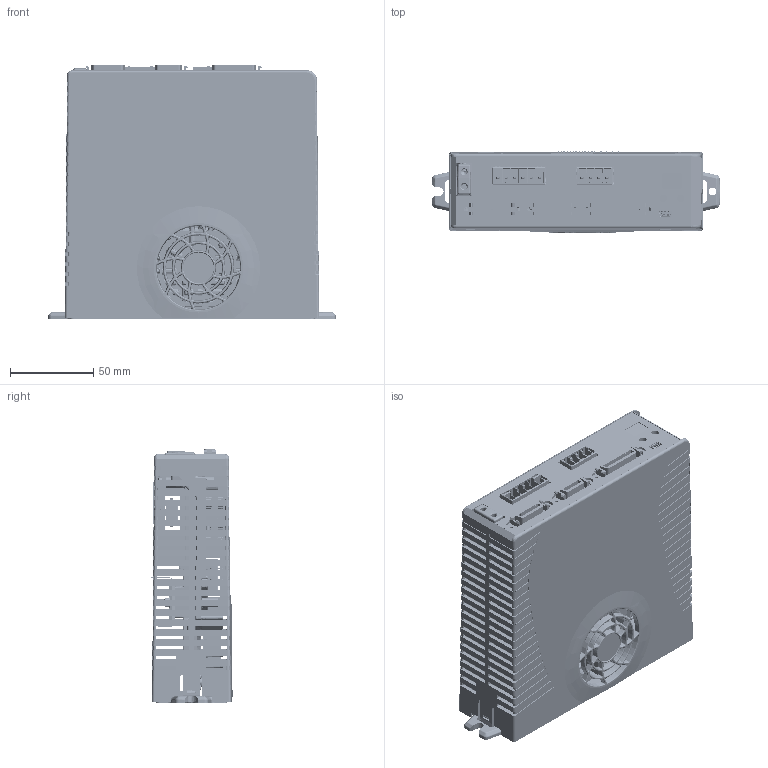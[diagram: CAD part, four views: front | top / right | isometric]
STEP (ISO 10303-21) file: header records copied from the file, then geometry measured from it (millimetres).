
FILE_DESCRIPTION (( 'STEP AP214' ), '1' );
FILE_NAME ('CDHD2S-003A-ASS.STEP', '2024-04-13T00:59:20', ( '' ), ( '' ), 'SwSTEP 2.0', 'SolidWorks 2016', '' );
FILE_SCHEMA (( 'AUTOMOTIVE_DESIGN' ));
Length unit declared in the file: millimetre
Products named in the file (35): PRDr9HPA01Mz; PRDr9RD0000z; FAN4510; 15edgrc-3_5-06p-14-03a_h_; CONr00000036-12; HSKrCD2S003MV01-00-2024.1.30; jack-t3005004pin; PCB-R90C0DR0-00_a; CONr00000040-40; KAN0241H-0350H_轻触开关_轩立; jack-t3005006pin; CONr00000020-S0; SCRr000000M3-29_Screw Sems M3x6 MTF JIS B 1188-D  ; ______1; ROTERY SW  Grayhill 94HAB10RAT-1; MB24________; CONr00000026-25; 15EDGRN-3.5-04P-14-00A(H); LEXr9RM030AF; SCRr000000M3-44_SEMS SCR  M3x6mm WITH INT TOOTH LOCK WASHER ZINC; _; LEXr9RM030AF (top); ____; PRDr9HCSAF1z; ___--_3_5_; CDHD2S-003A-ASS; CONr00000020-16; MECrCD2S00301-00; PCB-R90C0DR0-00; ______; LED DIGIT  DISPLAY - NINGBO-FYS-3911AX_BX-XX-1; _____; IPMrPSS15S92-00_IPM Mitsubishi_PSS30S92F6-AG; 5000750517; CONr0000RJ45-23
Assembly tree (39 placements, depth 4):
  CDHD2S-003A-ASS
    PRDr9HCSAF1z
      CONr00000040-40
      CONr00000036-12
      CONr00000026-25
      CONr0000RJ45-23  x2
      CONr00000020-16
      15edgrc-3_5-06p-14-03a_h_
      KAN0241H-0350H_轻触开关_轩立
        ______1
        _____
        ______
        ____
        MB24________
        _
        ___--_3_5_
    PRDr9HPA01Mz
      IPMrPSS15S92-00_IPM Mitsubishi_PSS30S92F6-AG
      SCRr000000M3-44_SEMS SCR  M3x6mm WITH INT TOOTH LOCK WASHER ZINC  x4
      SCRr000000M3-29_Screw Sems M3x6 MTF JIS B 1188-D  
      jack-t3005004pin
      jack-t3005006pin
      15EDGRN-3.5-04P-14-00A(H)
    FAN4510
    MECrCD2S00301-00
    LEXr9RM030AF (top)
    LEXr9RM030AF
    PRDr9RD0000z
      PCB-R90C0DR0-00_a
      LED DIGIT  DISPLAY - NINGBO-FYS-3911AX_BX-XX-1
      ROTERY SW  Grayhill 94HAB10RAT-1  x2
      CONr00000020-S0
      5000750517
      PCB-R90C0DR0-00
    HSKrCD2S003MV01-00-2024.1.30
Bounding box: 172.99 x 48.7 x 152.23 mm (x, y, z)
Volume: 246045.3 mm3; surface area: 239781.1 mm2
Topology: 73 solids, 147 shells, 16738 faces, 46497 edges, 29902 vertices
Faces by surface type: plane 10787, cylinder 2937, bspline 2513, cone 426, torus 75
Entity records: 611317 total; most frequent: CARTESIAN_POINT 187602, ORIENTED_EDGE 88300, DIRECTION 68650, EDGE_CURVE 44320, VECTOR 32010, LINE 32010, VERTEX_POINT 28628, AXIS2_PLACEMENT_3D 18320
